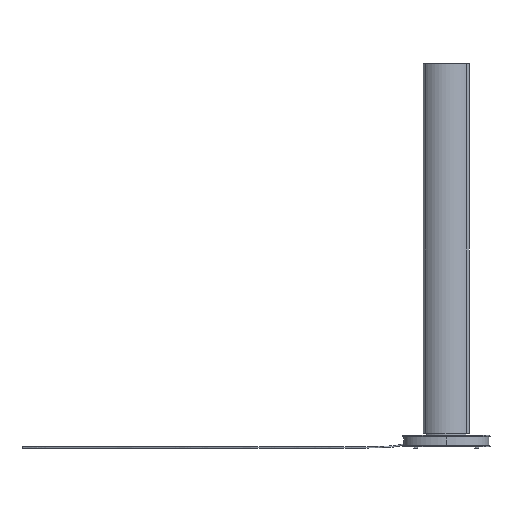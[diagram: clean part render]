
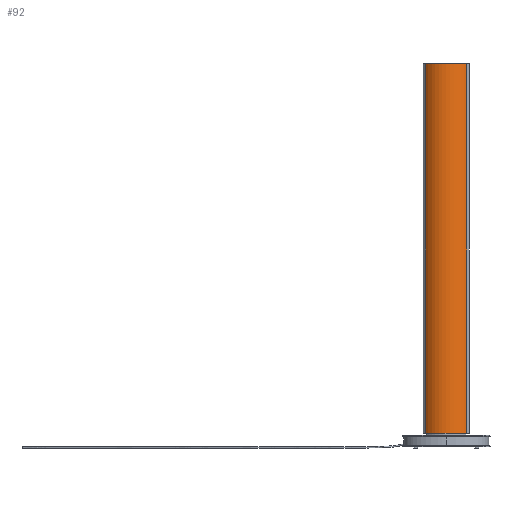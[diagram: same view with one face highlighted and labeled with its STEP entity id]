
A CAD part, front view. The second image highlights one B-rep face of the part: STEP entity #92.
In plain terms, the highlighted cylindrical face has radius 121 mm (diameter 242 mm), a partial arc.
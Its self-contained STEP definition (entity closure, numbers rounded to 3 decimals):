
#92=ADVANCED_FACE('',(#288),#3222,.T.);
#288=FACE_OUTER_BOUND('',#494,.T.);
#494=EDGE_LOOP('',(#996,#997,#998,#999));
#996=ORIENTED_EDGE('',*,*,#1926,.F.);
#997=ORIENTED_EDGE('',*,*,#1927,.T.);
#998=ORIENTED_EDGE('',*,*,#1928,.T.);
#999=ORIENTED_EDGE('',*,*,#1929,.T.);
#1926=EDGE_CURVE('',#2935,#2840,#2671,.T.);
#1927=EDGE_CURVE('',#2935,#2936,#2319,.T.);
#1928=EDGE_CURVE('',#2936,#2937,#2672,.T.);
#1929=EDGE_CURVE('',#2937,#2840,#2320,.T.);
#2319=B_SPLINE_CURVE_WITH_KNOTS('',1,(#19086,#19087),.UNSPECIFIED.,.F.,
 .F.,(2,2),(0.,1600.),.UNSPECIFIED.);
#2320=B_SPLINE_CURVE_WITH_KNOTS('',1,(#19093,#19094),.UNSPECIFIED.,.F.,
 .F.,(2,2),(-1600.,0.),.UNSPECIFIED.);
#2671=(
BOUNDED_CURVE()
B_SPLINE_CURVE(2,(#19081,#19082,#19083,#19084,#19085),.UNSPECIFIED.,.F.,
 .F.)
B_SPLINE_CURVE_WITH_KNOTS((3,2,3),(-285.899,-186.642,
-87.385),.UNSPECIFIED.)
CURVE()
GEOMETRIC_REPRESENTATION_ITEM()
RATIONAL_B_SPLINE_CURVE((1.,0.917,1.,0.917,1.))
REPRESENTATION_ITEM('')
);
#2672=(
BOUNDED_CURVE()
B_SPLINE_CURVE(2,(#19088,#19089,#19090,#19091,#19092),.UNSPECIFIED.,.F.,
 .F.)
B_SPLINE_CURVE_WITH_KNOTS((3,2,3),(-285.899,-186.642,
-87.385),.UNSPECIFIED.)
CURVE()
GEOMETRIC_REPRESENTATION_ITEM()
RATIONAL_B_SPLINE_CURVE((1.,0.917,1.,0.917,1.))
REPRESENTATION_ITEM('')
);
#2840=VERTEX_POINT('',#18398);
#2935=VERTEX_POINT('',#18493);
#2936=VERTEX_POINT('',#18494);
#2937=VERTEX_POINT('',#18495);
#3222=CYLINDRICAL_SURFACE('',#3403,121.);
#3403=AXIS2_PLACEMENT_3D('',#18225,#3582,$);
#3582=DIRECTION('',(0.,0.,1.));
#18225=CARTESIAN_POINT('',(0.,76.487,865.));
#18398=CARTESIAN_POINT('',(-88.494,-6.035,65.));
#18493=CARTESIAN_POINT('',(88.494,-6.035,65.));
#18494=CARTESIAN_POINT('',(88.494,-6.035,1665.));
#18495=CARTESIAN_POINT('',(-88.494,-6.035,1665.));
#19081=CARTESIAN_POINT('',(88.494,-6.035,65.));
#19082=CARTESIAN_POINT('',(52.612,-44.513,65.));
#19083=CARTESIAN_POINT('',(0.,-44.513,65.));
#19084=CARTESIAN_POINT('',(-52.612,-44.513,65.));
#19085=CARTESIAN_POINT('',(-88.494,-6.035,65.));
#19086=CARTESIAN_POINT('',(88.494,-6.035,65.));
#19087=CARTESIAN_POINT('',(88.494,-6.035,1665.));
#19088=CARTESIAN_POINT('',(88.494,-6.035,1665.));
#19089=CARTESIAN_POINT('',(52.612,-44.513,1665.));
#19090=CARTESIAN_POINT('',(0.,-44.513,1665.));
#19091=CARTESIAN_POINT('',(-52.612,-44.513,1665.));
#19092=CARTESIAN_POINT('',(-88.494,-6.035,1665.));
#19093=CARTESIAN_POINT('',(-88.494,-6.035,1665.));
#19094=CARTESIAN_POINT('',(-88.494,-6.035,65.));
